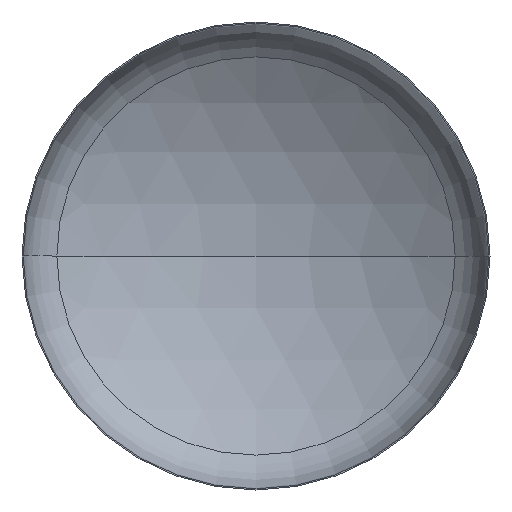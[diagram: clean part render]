
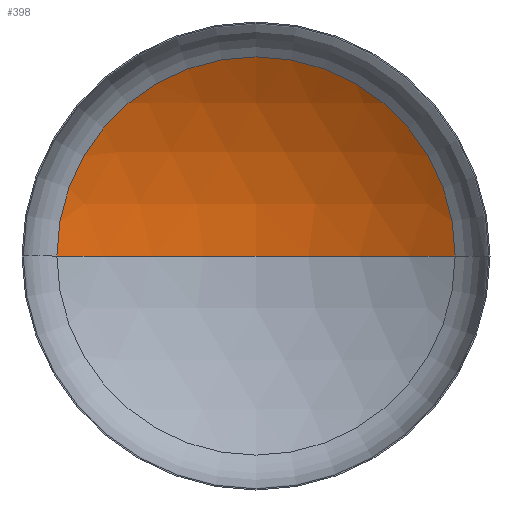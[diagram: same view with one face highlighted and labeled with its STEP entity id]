
A CAD part, front view. The second image highlights one B-rep face of the part: STEP entity #398.
In plain terms, the highlighted spherical face has radius 3200 mm.
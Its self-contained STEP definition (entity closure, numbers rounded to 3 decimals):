
#3 = AXIS2_PLACEMENT_3D ( 'NONE', #155, #178, #232 ) ;
#5 = ORIENTED_EDGE ( 'NONE', *, *, #103, .T. ) ;
#6 = DIRECTION ( 'NONE',  ( 0., -1., 0. ) ) ;
#13 = DIRECTION ( 'NONE',  ( 0., 0., -1. ) ) ;
#25 = VERTEX_POINT ( 'NONE', #278 ) ;
#34 = CARTESIAN_POINT ( 'NONE',  ( 0., -2158.972, 0. ) ) ;
#37 = VERTEX_POINT ( 'NONE', #242 ) ;
#41 = AXIS2_PLACEMENT_3D ( 'NONE', #34, #13, #403 ) ;
#44 = VERTEX_POINT ( 'NONE', #338 ) ;
#46 = AXIS2_PLACEMENT_3D ( 'NONE', #407, #6, #139 ) ;
#54 = ORIENTED_EDGE ( 'NONE', *, *, #346, .F. ) ;
#62 = ORIENTED_EDGE ( 'NONE', *, *, #110, .T. ) ;
#75 = EDGE_LOOP ( 'NONE', ( #54, #62, #5 ) ) ;
#103 = EDGE_CURVE ( 'NONE', #25, #44, #386, .T. ) ;
#110 = EDGE_CURVE ( 'NONE', #37, #25, #253, .T. ) ;
#139 = DIRECTION ( 'NONE',  ( 1., 0., 0. ) ) ;
#141 = DIRECTION ( 'NONE',  ( 0., 0., -1. ) ) ;
#155 = CARTESIAN_POINT ( 'NONE',  ( 0., -2158.972, 0. ) ) ;
#178 = DIRECTION ( 'NONE',  ( 0., 0., 1. ) ) ;
#221 = CIRCLE ( 'NONE', #3, 3200. ) ;
#232 = DIRECTION ( 'NONE',  ( 1., 0., 0. ) ) ;
#237 = AXIS2_PLACEMENT_3D ( 'NONE', #339, #141, #322 ) ;
#242 = CARTESIAN_POINT ( 'NONE',  ( 0., 1041.028, 0. ) ) ;
#253 = CIRCLE ( 'NONE', #41, 3200. ) ;
#255 = SPHERICAL_SURFACE ( 'NONE', #237, 3200. ) ;
#278 = CARTESIAN_POINT ( 'NONE',  ( 1702.128, 550.781, 0. ) ) ;
#322 = DIRECTION ( 'NONE',  ( -1., 0., 0. ) ) ;
#337 = FACE_OUTER_BOUND ( 'NONE', #75, .T. ) ;
#338 = CARTESIAN_POINT ( 'NONE',  ( -1702.128, 550.781, 0. ) ) ;
#339 = CARTESIAN_POINT ( 'NONE',  ( 0., -2158.972, 0. ) ) ;
#346 = EDGE_CURVE ( 'NONE', #37, #44, #221, .T. ) ;
#386 = CIRCLE ( 'NONE', #46, 1702.128 ) ;
#398 = ADVANCED_FACE ( 'NONE', ( #337 ), #255, .F. ) ;
#403 = DIRECTION ( 'NONE',  ( -1., 0., 0. ) ) ;
#407 = CARTESIAN_POINT ( 'NONE',  ( 0., 550.781, 0. ) ) ;
